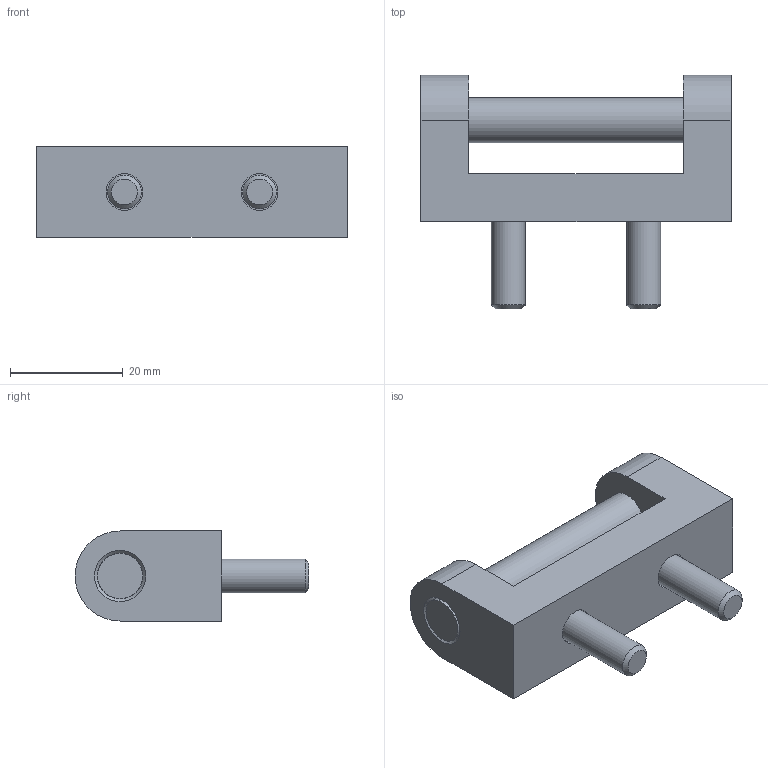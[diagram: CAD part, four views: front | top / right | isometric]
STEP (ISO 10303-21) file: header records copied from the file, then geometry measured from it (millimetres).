
FILE_DESCRIPTION (( 'STEP AP214' ), '1' );
FILE_NAME ('ENS N50122 AVEC ACCESSOIRES.step', '2024-12-03T16:27:43', ( '' ), ( '' ), 'SwSTEP 2.0', 'SolidWorks 2023', '' );
FILE_SCHEMA (( 'AUTOMOTIVE_DESIGN' ));
Length unit declared in the file: millimetre
Products named in the file (4): ENS N50122 AVEC ACCESSOIRES; F10538 Vis CHC M6x20_F10538 Vis CHC M6x20; N50122_N50122 (Argent); N30124
Assembly tree (4 placements, depth 2):
  ENS N50122 AVEC ACCESSOIRES
    N50122_N50122 (Argent)
    N30124
    F10538 Vis CHC M6x20_F10538 Vis CHC M6x20  x2
Bounding box: 55 x 41.5 x 16 mm (x, y, z)
Volume: 14175.7 mm3; surface area: 7899.5 mm2
Topology: 4 solids, 4 shells, 53 faces, 112 edges, 74 vertices
Faces by surface type: plane 33, cylinder 14, cone 4, torus 2
Full cylindrical faces by diameter (mm): 6 x2, 6.5 x2, 8 x1, 8.1 x2, 8.3 x1, 10 x2, 11.5 x2
Entity records: 1105 total; most frequent: DIRECTION 186, CARTESIAN_POINT 164, ORIENTED_EDGE 132, AXIS2_PLACEMENT_3D 74, EDGE_LOOP 66, EDGE_CURVE 66, VERTEX_POINT 52, FACE_OUTER_BOUND 50
